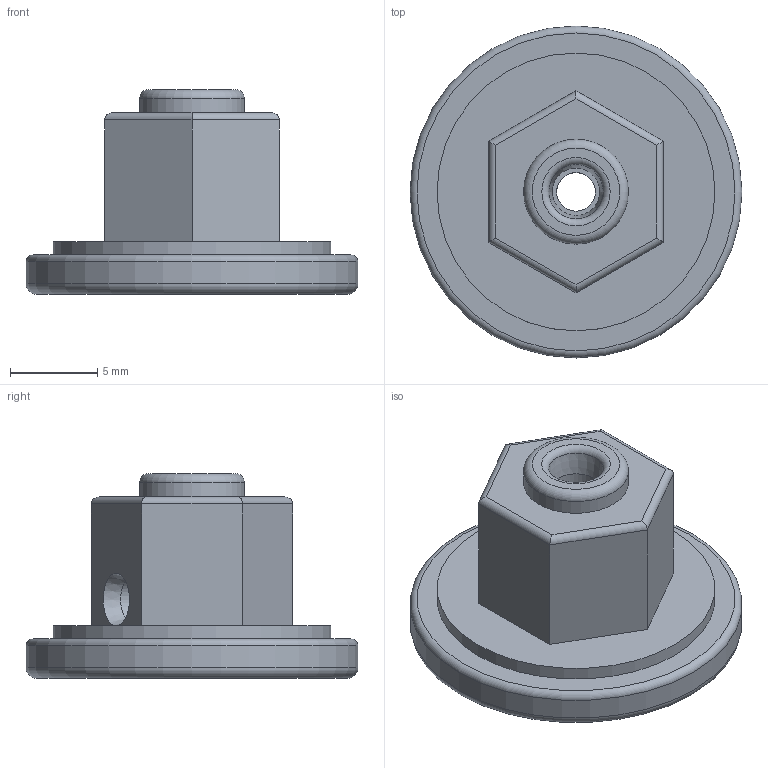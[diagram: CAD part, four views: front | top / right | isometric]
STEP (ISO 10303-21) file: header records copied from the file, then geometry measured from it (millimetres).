
FILE_DESCRIPTION(/* description */ (''),/* implementation_level */ '2;1');
FILE_NAME(/* name */ 'G:\~~Autodesk Inventor File Backup~~\Wolverine Parts by Kamel Ikhlef\My Inventor Drawn Telecine Parts\My USED STP Files\Back_Pulley_Capstan_S8_Hexagonal_NO Brass Inserts.stp',/* time_stamp */ '2020-02-16T20:23:03+11:00',/* author */ ('bruce'),/* organization */ (''),/* preprocessor_version */ 'ST-DEVELOPER v17.2',/* originating_system */ 'Autodesk Inventor 2019',/* authorisation */ '');
FILE_SCHEMA (('AUTOMOTIVE_DESIGN { 1 0 10303 214 3 1 1 }'));
Length unit declared in the file: millimetre
Products named in the file (1): Back_Pulley_Capstan_S8_Hexagonal_NO Brass Inserts
Bounding box: 19 x 19 x 11.7 mm (x, y, z)
Volume: 1376.9 mm3; surface area: 1084.5 mm2
Topology: 1 solids, 1 shells, 33 faces, 78 edges, 50 vertices
Faces by surface type: plane 14, cylinder 12, torus 5, cone 2
Full cylindrical faces by diameter (mm): 2.21 x1, 2.5 x1, 2.725 x1, 6 x1, 15.9 x1, 19 x1
Entity records: 1036 total; most frequent: CARTESIAN_POINT 188, DIRECTION 185, ORIENTED_EDGE 156, EDGE_CURVE 78, AXIS2_PLACEMENT_3D 75, VERTEX_POINT 50, EDGE_LOOP 40, LINE 35
